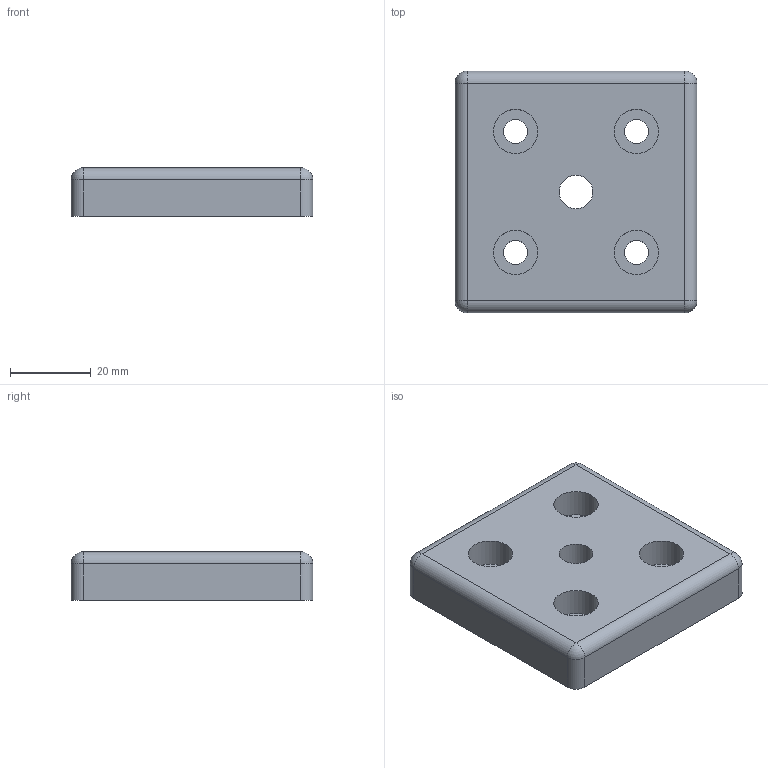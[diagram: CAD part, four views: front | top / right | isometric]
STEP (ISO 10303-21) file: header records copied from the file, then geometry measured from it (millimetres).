
FILE_DESCRIPTION(/* description */ ('STEP AP214'),/* implementation_level */ '2;1');
FILE_NAME(/* name */ 'Transport and Base Plate GN 80i-60606M10-A-ZS',/* time_stamp */ '2024-08-28T12:26:13+02:00',/* author */ ('License CC BY-ND 4.0'),/* organization */ ('CADENAS'),/* preprocessor_version */ 'ST-DEVELOPER v19.3',/* originating_system */ 'PARTsolutions',/* authorisation */ ' ');
FILE_SCHEMA (('AUTOMOTIVE_DESIGN {1 0 10303 214 3 1 1}'));
Length unit declared in the file: millimetre
Products named in the file (1): Transport and Base Plate GN 80i-60606M10-A-ZS
Bounding box: 60 x 60 x 12 mm (x, y, z)
Volume: 38774.2 mm3; surface area: 11020.3 mm2
Topology: 1 solids, 1 shells, 31 faces, 67 edges, 38 vertices
Faces by surface type: cylinder 17, plane 10, sphere 4
Full cylindrical faces by diameter (mm): 6 x4, 8.376 x1, 11 x4
Entity records: 820 total; most frequent: DIRECTION 152, CARTESIAN_POINT 124, ORIENTED_EDGE 108, AXIS2_PLACEMENT_3D 66, EDGE_CURVE 54, EDGE_LOOP 54, FACE_BOUND 54, VERTEX_POINT 38
